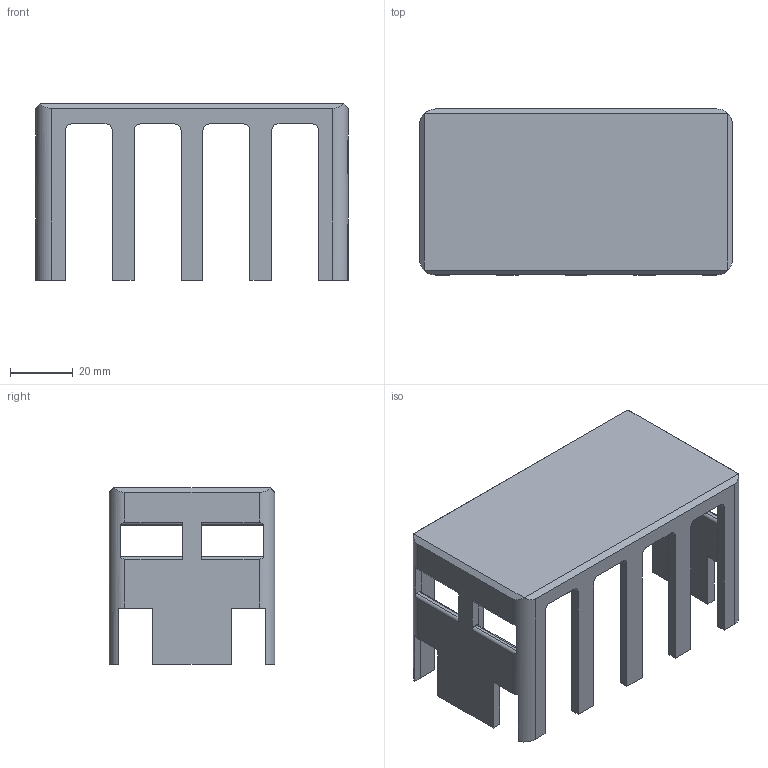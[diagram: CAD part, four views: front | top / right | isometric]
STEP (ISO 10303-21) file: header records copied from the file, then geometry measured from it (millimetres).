
FILE_DESCRIPTION(/* description */ ('STEP AP242 Edition 2','CAx-IF Rec.Pracs.---Representation and Presentation of Product Manufacturing Information (PMI)---4.0---2014-10-13','CAx-IF Rec.Pracs.---3D Tessellated Geometry---0.4---2014-09-14','2;1','CAx-IF Rec.Pracs.---User Defined Attributes---1.5---2016-08-15'),/* implementation_level */ '2;1');
FILE_NAME(/* name */ 'Tarok - Total Assemply - PBD Cover',/* time_stamp */ '2026-05-23T09:34:07Z',/* author */ (''),/* organization */ (''),/* preprocessor_version */ 'ST-DEVELOPER v20',/* originating_system */ 'ONSHAPE BY PTC INC, 1.215',/* authorisation */ ' ');
FILE_SCHEMA (('AP242_MANAGED_MODEL_BASED_3D_ENGINEERING_MIM_LF { 1 0 10303 442 3 1 4 }'));
Length unit declared in the file: metre
Products named in the file (1): PBD Cover
Bounding box: 100 x 53 x 56.5 mm (x, y, z)
Volume: 38806.5 mm3; surface area: 30388.7 mm2
Topology: 1 solids, 1 shells, 118 faces, 360 edges, 240 vertices
Faces by surface type: plane 78, cylinder 40
Entity records: 4078 total; most frequent: CARTESIAN_POINT 743, ORIENTED_EDGE 720, DIRECTION 678, EDGE_CURVE 360, LINE 264, VECTOR 264, VERTEX_POINT 240, AXIS2_PLACEMENT_3D 207
